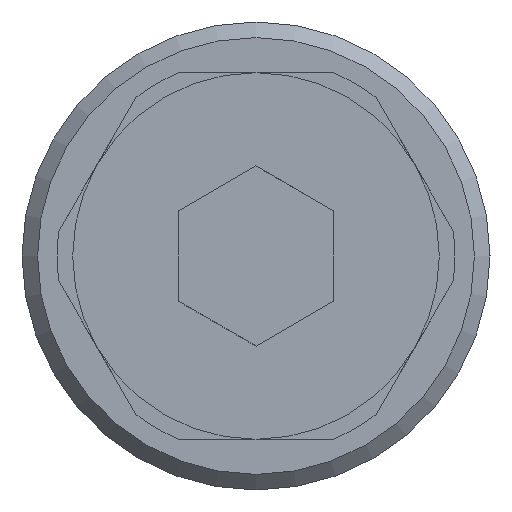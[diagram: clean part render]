
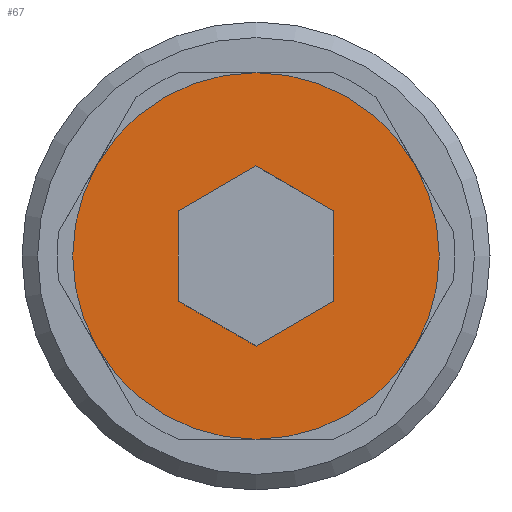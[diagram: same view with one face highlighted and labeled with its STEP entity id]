
A CAD part, left-side view. The second image highlights one B-rep face of the part: STEP entity #67.
In plain terms, the highlighted planar face has unit normal (-1, 0, 0).
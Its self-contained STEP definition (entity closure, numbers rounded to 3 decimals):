
#67 = ADVANCED_FACE( '', ( #167, #168 ), #169, .F. );
#167 = FACE_OUTER_BOUND( '', #314, .T. );
#168 = FACE_BOUND( '', #315, .T. );
#169 = PLANE( '', #316 );
#314 = EDGE_LOOP( '', ( #460 ) );
#315 = EDGE_LOOP( '', ( #461, #462, #463, #464, #465, #466 ) );
#316 = AXIS2_PLACEMENT_3D( '', #467, #468, #469 );
#460 = ORIENTED_EDGE( '', *, *, #783, .F. );
#461 = ORIENTED_EDGE( '', *, *, #784, .F. );
#462 = ORIENTED_EDGE( '', *, *, #785, .F. );
#463 = ORIENTED_EDGE( '', *, *, #786, .F. );
#464 = ORIENTED_EDGE( '', *, *, #787, .F. );
#465 = ORIENTED_EDGE( '', *, *, #788, .F. );
#466 = ORIENTED_EDGE( '', *, *, #789, .F. );
#467 = CARTESIAN_POINT( '', ( 4.3, 0., 0. ) );
#468 = DIRECTION( '', ( 1., 0., 0. ) );
#469 = DIRECTION( '', ( 0., 0., -1. ) );
#783 = EDGE_CURVE( '', #910, #910, #911, .T. );
#784 = EDGE_CURVE( '', #912, #913, #914, .T. );
#785 = EDGE_CURVE( '', #915, #912, #916, .T. );
#786 = EDGE_CURVE( '', #917, #915, #918, .T. );
#787 = EDGE_CURVE( '', #919, #917, #920, .T. );
#788 = EDGE_CURVE( '', #921, #919, #922, .T. );
#789 = EDGE_CURVE( '', #913, #921, #923, .T. );
#910 = VERTEX_POINT( '', #1089 );
#911 = CIRCLE( '', #1090, 2.35 );
#912 = VERTEX_POINT( '', #1091 );
#913 = VERTEX_POINT( '', #1092 );
#914 = LINE( '', #1093, #1094 );
#915 = VERTEX_POINT( '', #1095 );
#916 = LINE( '', #1096, #1097 );
#917 = VERTEX_POINT( '', #1098 );
#918 = LINE( '', #1099, #1100 );
#919 = VERTEX_POINT( '', #1101 );
#920 = LINE( '', #1102, #1103 );
#921 = VERTEX_POINT( '', #1104 );
#922 = LINE( '', #1105, #1106 );
#923 = LINE( '', #1107, #1108 );
#1089 = CARTESIAN_POINT( '', ( 4.3, 0., -2.35 ) );
#1090 = AXIS2_PLACEMENT_3D( '', #1310, #1311, #1312 );
#1091 = CARTESIAN_POINT( '', ( 4.3, 0., 1.155 ) );
#1092 = CARTESIAN_POINT( '', ( 4.3, 1., 0.577 ) );
#1093 = CARTESIAN_POINT( '', ( 4.3, 0.5, 0.866 ) );
#1094 = VECTOR( '', #1313, 1000. );
#1095 = CARTESIAN_POINT( '', ( 4.3, -1., 0.577 ) );
#1096 = CARTESIAN_POINT( '', ( 4.3, -0.5, 0.866 ) );
#1097 = VECTOR( '', #1314, 1000. );
#1098 = CARTESIAN_POINT( '', ( 4.3, -1., -0.577 ) );
#1099 = CARTESIAN_POINT( '', ( 4.3, -1., 0. ) );
#1100 = VECTOR( '', #1315, 1000. );
#1101 = CARTESIAN_POINT( '', ( 4.3, 0., -1.155 ) );
#1102 = CARTESIAN_POINT( '', ( 4.3, -0.5, -0.866 ) );
#1103 = VECTOR( '', #1316, 1000. );
#1104 = CARTESIAN_POINT( '', ( 4.3, 1., -0.577 ) );
#1105 = CARTESIAN_POINT( '', ( 4.3, 0.5, -0.866 ) );
#1106 = VECTOR( '', #1317, 1000. );
#1107 = CARTESIAN_POINT( '', ( 4.3, 1., 0. ) );
#1108 = VECTOR( '', #1318, 1000. );
#1310 = CARTESIAN_POINT( '', ( 4.3, 0., 0. ) );
#1311 = DIRECTION( '', ( 1., 0., 0. ) );
#1312 = DIRECTION( '', ( 0., 0., -1. ) );
#1313 = DIRECTION( '', ( 0., 0.866, -0.5 ) );
#1314 = DIRECTION( '', ( 0., 0.866, 0.5 ) );
#1315 = DIRECTION( '', ( 0., 0., 1. ) );
#1316 = DIRECTION( '', ( 0., -0.866, 0.5 ) );
#1317 = DIRECTION( '', ( 0., -0.866, -0.5 ) );
#1318 = DIRECTION( '', ( 0., 0., -1. ) );
